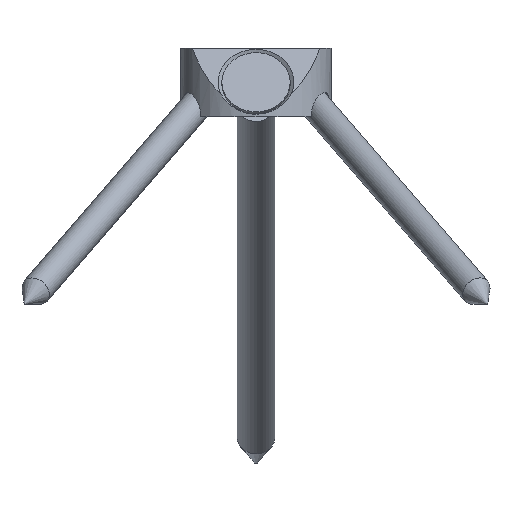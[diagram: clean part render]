
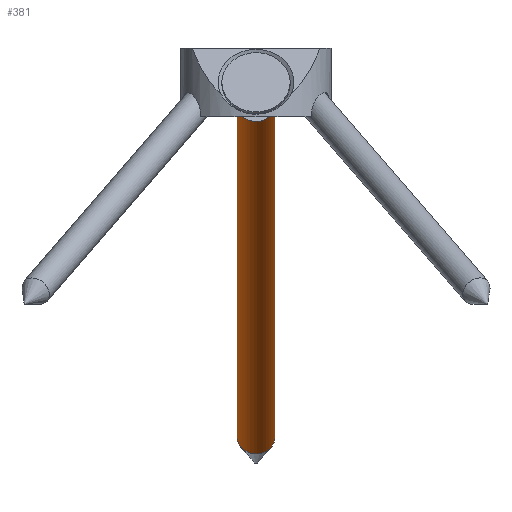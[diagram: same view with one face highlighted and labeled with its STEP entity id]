
A CAD part, front view. The second image highlights one B-rep face of the part: STEP entity #381.
In plain terms, the highlighted cylindrical face has radius 5 mm (diameter 10 mm), a full revolution.
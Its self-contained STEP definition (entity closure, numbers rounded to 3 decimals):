
#88=CIRCLE('',#482,5.);
#89=CIRCLE('',#484,5.);
#162=ORIENTED_EDGE('',*,*,#203,.T.);
#163=ORIENTED_EDGE('',*,*,#202,.F.);
#202=EDGE_CURVE('',#235,#235,#88,.T.);
#203=EDGE_CURVE('',#236,#236,#89,.T.);
#235=VERTEX_POINT('',#765);
#236=VERTEX_POINT('',#768);
#288=EDGE_LOOP('',(#162));
#289=EDGE_LOOP('',(#163));
#339=FACE_BOUND('',#288,.T.);
#340=FACE_BOUND('',#289,.T.);
#355=CYLINDRICAL_SURFACE('',#483,5.);
#381=ADVANCED_FACE('',(#339,#340),#355,.T.);
#482=AXIS2_PLACEMENT_3D('',#764,#606,#607);
#483=AXIS2_PLACEMENT_3D('',#766,#608,#609);
#484=AXIS2_PLACEMENT_3D('',#767,#610,#611);
#606=DIRECTION('',(0.,1.,0.));
#607=DIRECTION('',(0.,0.,1.));
#608=DIRECTION('',(0.,1.,0.));
#609=DIRECTION('',(0.,0.,1.));
#610=DIRECTION('',(0.,1.,0.));
#611=DIRECTION('',(0.,0.,1.));
#764=CARTESIAN_POINT('',(0.,42.,0.));
#765=CARTESIAN_POINT('',(0.,42.,5.));
#766=CARTESIAN_POINT('',(0.,54.,0.));
#767=CARTESIAN_POINT('',(0.,-133.,0.));
#768=CARTESIAN_POINT('',(0.,-133.,5.));
